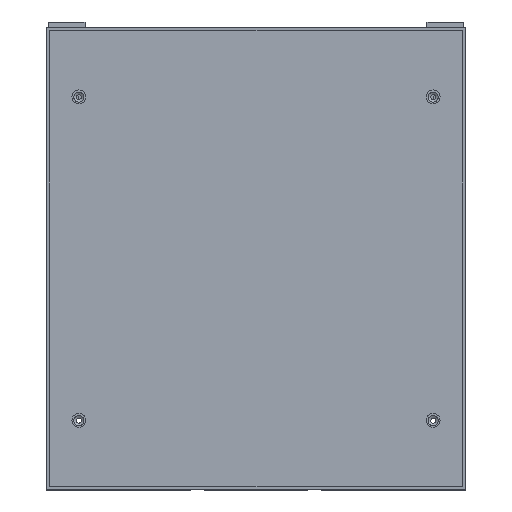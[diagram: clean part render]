
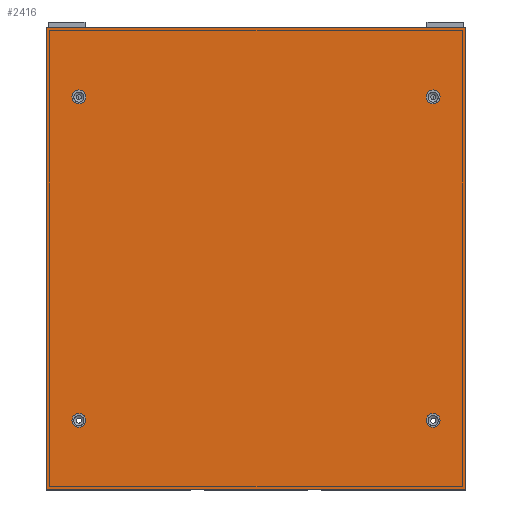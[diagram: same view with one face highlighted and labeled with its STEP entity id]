
A CAD part, top view. The second image highlights one B-rep face of the part: STEP entity #2416.
In plain terms, the highlighted planar face has unit normal (0, 0, 1).
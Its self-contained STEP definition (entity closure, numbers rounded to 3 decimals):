
#302=FACE_BOUND('',#4487,.T.);
#303=FACE_BOUND('',#4488,.T.);
#304=FACE_BOUND('',#4489,.T.);
#305=FACE_BOUND('',#4490,.T.);
#306=FACE_BOUND('',#4491,.T.);
#976=PLANE('',#16931);
#1584=CIRCLE('',#16927,2.25);
#1585=CIRCLE('',#16928,2.25);
#1586=CIRCLE('',#16929,2.25);
#1587=CIRCLE('',#16930,2.25);
#2416=ADVANCED_FACE('',(#302,#303,#304,#305,#306),#976,.F.);
#4487=EDGE_LOOP('',(#6867));
#4488=EDGE_LOOP('',(#6868));
#4489=EDGE_LOOP('',(#6869));
#4490=EDGE_LOOP('',(#6870));
#4491=EDGE_LOOP('',(#6871,#6872,#6873,#6874));
#6867=ORIENTED_EDGE('',*,*,#12634,.F.);
#6868=ORIENTED_EDGE('',*,*,#12635,.F.);
#6869=ORIENTED_EDGE('',*,*,#12636,.F.);
#6870=ORIENTED_EDGE('',*,*,#12637,.F.);
#6871=ORIENTED_EDGE('',*,*,#12309,.F.);
#6872=ORIENTED_EDGE('',*,*,#12638,.F.);
#6873=ORIENTED_EDGE('',*,*,#12239,.F.);
#6874=ORIENTED_EDGE('',*,*,#12639,.F.);
#10576=VERTEX_POINT('',#24712);
#10577=VERTEX_POINT('',#24714);
#10618=VERTEX_POINT('',#24843);
#10619=VERTEX_POINT('',#24845);
#10829=VERTEX_POINT('',#25503);
#10830=VERTEX_POINT('',#25505);
#10831=VERTEX_POINT('',#25507);
#10832=VERTEX_POINT('',#25509);
#12239=EDGE_CURVE('',#10576,#10577,#14286,.T.);
#12309=EDGE_CURVE('',#10618,#10619,#14338,.T.);
#12634=EDGE_CURVE('',#10829,#10829,#1584,.T.);
#12635=EDGE_CURVE('',#10830,#10830,#1585,.T.);
#12636=EDGE_CURVE('',#10831,#10831,#1586,.T.);
#12637=EDGE_CURVE('',#10832,#10832,#1587,.T.);
#12638=EDGE_CURVE('',#10577,#10618,#14540,.T.);
#12639=EDGE_CURVE('',#10619,#10576,#14541,.T.);
#14286=LINE('',#24713,#15464);
#14338=LINE('',#24844,#15516);
#14540=LINE('',#25510,#15718);
#14541=LINE('',#25511,#15719);
#15464=VECTOR('',#18913,1.);
#15516=VECTOR('',#19039,1.);
#15718=VECTOR('',#19741,1.);
#15719=VECTOR('',#19742,1.);
#16927=AXIS2_PLACEMENT_3D('',#25502,#19733,#19734);
#16928=AXIS2_PLACEMENT_3D('',#25504,#19735,#19736);
#16929=AXIS2_PLACEMENT_3D('',#25506,#19737,#19738);
#16930=AXIS2_PLACEMENT_3D('',#25508,#19739,#19740);
#16931=AXIS2_PLACEMENT_3D('',#25512,#19743,#19744);
#18913=DIRECTION('',(0.,1.,0.));
#19039=DIRECTION('',(0.,-1.,0.));
#19733=DIRECTION('',(0.,0.,1.));
#19734=DIRECTION('',(-1.,0.,0.));
#19735=DIRECTION('',(0.,0.,1.));
#19736=DIRECTION('',(1.,0.,0.));
#19737=DIRECTION('',(0.,0.,1.));
#19738=DIRECTION('',(-1.,0.,0.));
#19739=DIRECTION('',(0.,0.,1.));
#19740=DIRECTION('',(1.,0.,0.));
#19741=DIRECTION('',(1.,0.,0.));
#19742=DIRECTION('',(-1.,0.,0.));
#19743=DIRECTION('',(0.,0.,-1.));
#19744=DIRECTION('',(1.,0.,0.));
#24712=CARTESIAN_POINT('',(-68.,-78.,193.));
#24713=CARTESIAN_POINT('',(-68.,72.,193.));
#24714=CARTESIAN_POINT('',(-68.,72.,193.));
#24843=CARTESIAN_POINT('',(68.,72.,193.));
#24844=CARTESIAN_POINT('',(68.,72.,193.));
#24845=CARTESIAN_POINT('',(68.,-78.,193.));
#25502=CARTESIAN_POINT('',(-57.5,-55.5,193.));
#25503=CARTESIAN_POINT('',(-59.75,-55.5,193.));
#25504=CARTESIAN_POINT('',(57.5,-55.5,193.));
#25505=CARTESIAN_POINT('',(59.75,-55.5,193.));
#25506=CARTESIAN_POINT('',(57.5,49.5,193.));
#25507=CARTESIAN_POINT('',(55.25,49.5,193.));
#25508=CARTESIAN_POINT('',(-57.5,49.5,193.));
#25509=CARTESIAN_POINT('',(-55.25,49.5,193.));
#25510=CARTESIAN_POINT('',(68.,72.,193.));
#25511=CARTESIAN_POINT('',(68.,-78.,193.));
#25512=CARTESIAN_POINT('',(0.,-3.,193.));
